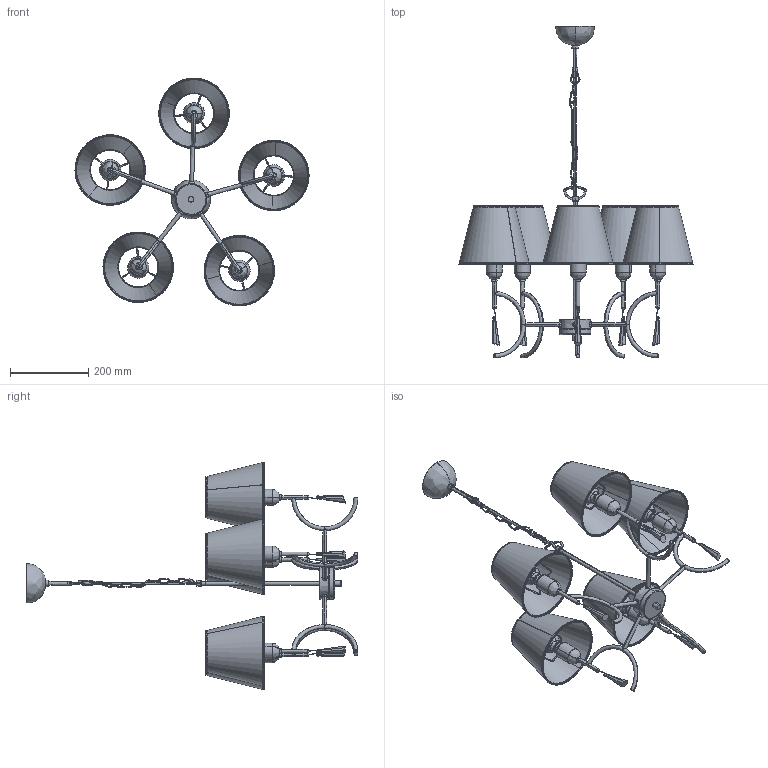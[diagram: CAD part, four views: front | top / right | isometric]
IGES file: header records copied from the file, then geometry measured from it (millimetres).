
Start section: SolidWorks IGES file using analytic representation for surfaces
Bounding box: 597.95 x 847.81 x 581.85 mm (x, y, z)
Surface area: 1111252.1 mm2 (no closed solid volume)
Topology: 0 solids, 0 shells, 1393 faces, 20016 edges, 20001 vertices
Faces by surface type: bspline 805, revolution 588
